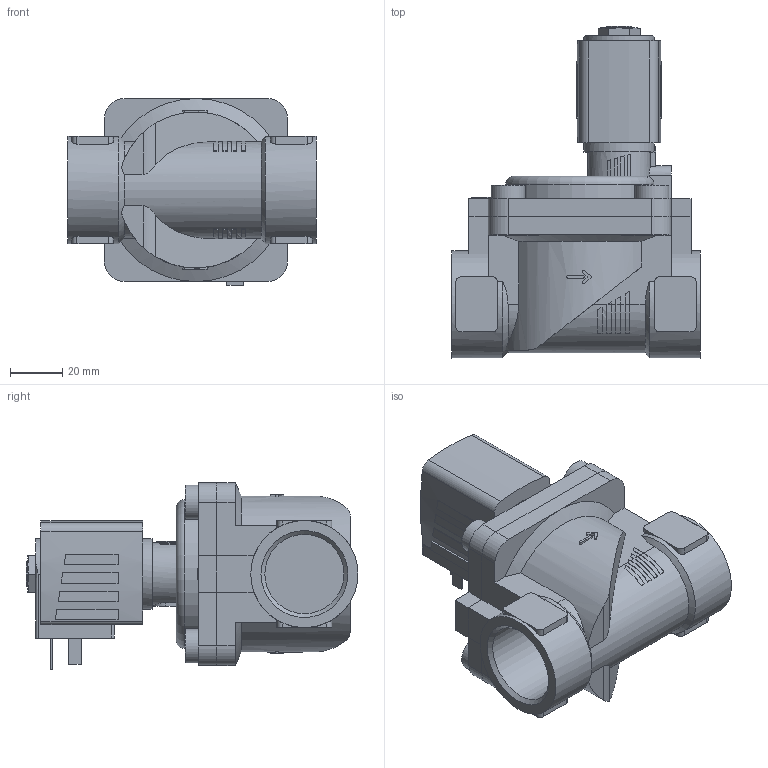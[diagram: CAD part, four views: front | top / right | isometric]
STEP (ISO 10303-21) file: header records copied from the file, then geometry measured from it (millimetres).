
FILE_DESCRIPTION(/* description */ ('STEP AP214'),/* implementation_level */ '2;1');
FILE_NAME(/* name */ '6281-344213-2_2-Way_Solenoid_Valve__Servo-assisted__General_Purpose',/* time_stamp */ '2024-06-08T06:43:35+02:00',/* author */ ('License CC BY-ND 4.0'),/* organization */ ('CADENAS'),/* preprocessor_version */ 'ST-DEVELOPER v19.3',/* originating_system */ 'PARTsolutions',/* authorisation */ ' ');
FILE_SCHEMA (('AUTOMOTIVE_DESIGN {1 0 10303 214 3 1 1}'));
Length unit declared in the file: millimetre
Products named in the file (4): 6281-344213-2/2-Way Solenoid Valve, Servo-assisted, General Purpose; 5281ev250MS2/2-Wege-Magnetventil mit Servomembran-Deckel   ; 6213-25G1MS-Gehaeuse-; AC10ex-5NA38-Plan-Coil
Assembly tree (3 placements, depth 2):
  6281-344213-2/2-Way Solenoid Valve, Servo-assisted, General Purpose
    5281ev250MS2/2-Wege-Magnetventil mit Servomembran-Deckel   
    6213-25G1MS-Gehaeuse-
    AC10ex-5NA38-Plan-Coil
Bounding box: 95 x 127 x 71.5 mm (x, y, z)
Volume: 288705.1 mm3; surface area: 54719.8 mm2
Topology: 3 solids, 3 shells, 337 faces, 888 edges, 586 vertices
Faces by surface type: plane 234, cylinder 89, cone 13, torus 1
Full cylindrical faces by diameter (mm): 2.013 x1, 9.74 x1, 13 x4, 27 x1, 30.291 x2, 41 x2
Entity records: 11623 total; most frequent: CARTESIAN_POINT 2053, ORIENTED_EDGE 1728, DIRECTION 1716, EDGE_CURVE 864, AXIS2_PLACEMENT_3D 582, VERTEX_POINT 578, LINE 552, VECTOR 552
